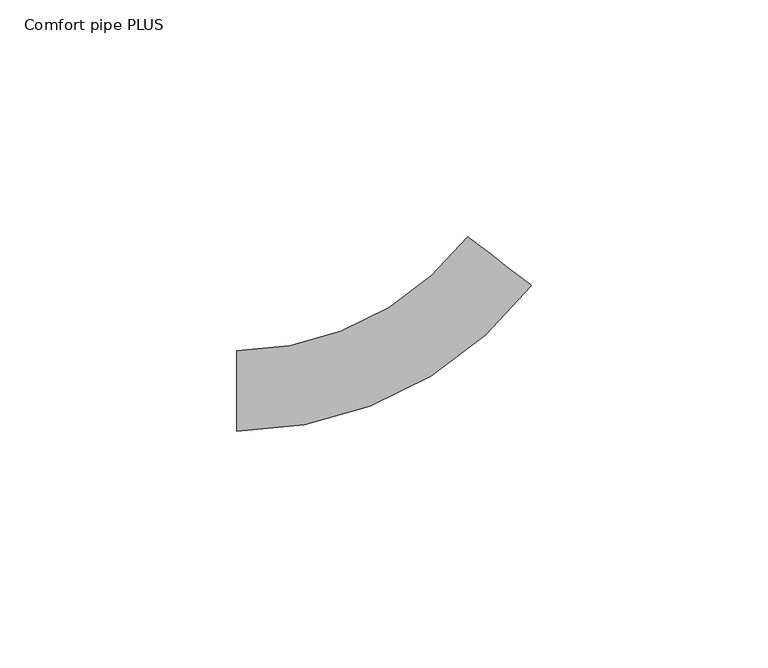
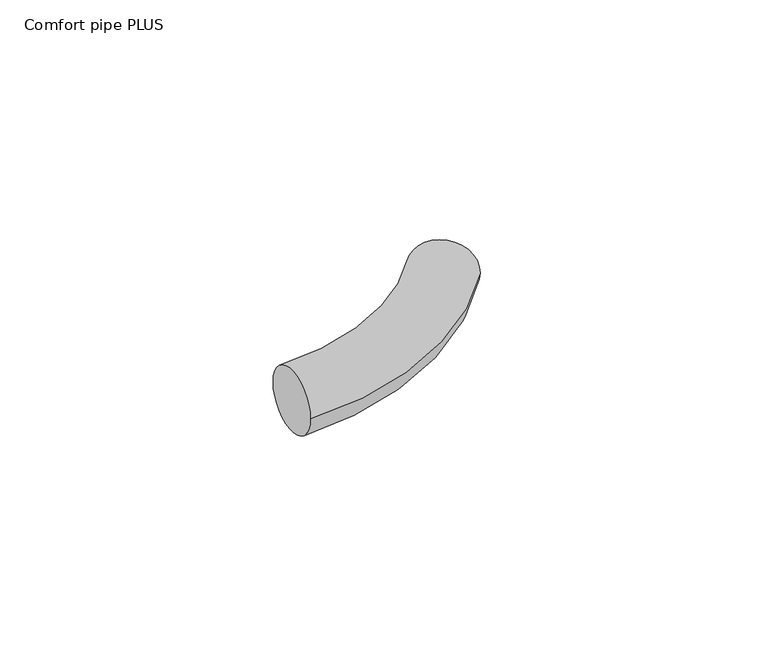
"""IFC4 building model written with IfcOpenShell, lengths in millimetres: pipe fitting geometry, 400_5-_Uponor_curved_Elbow : Comfort pipe PLUS."""

from ifc_helpers import new_model, si_unit, point, frame, origin, place, context, project, spatial, circle_curve, ellipse_curve, trimmed, source, transform, mapped, element, save
from ifc_brep_helpers import plane_surface, revolved_surface, advanced_brep


def comfort_pipe_plus_fd0ce3be(model_context):
    return source(origin(), model_context, "Body", "AdvancedBrep", [
        advanced_brep(
        [(-34.5487759, -8.5, 0.0), (-34.5487759, 8.5, 0.0), (27.7608491, 22.253161, 0.0), (14.2670449, 32.5932408, 0.0)],
        [
            (0, 1, circle_curve(frame((-34.5487759, 0.0, 0.0), z_axis=(-1.0, 0.0, 0.0), x_axis=(0.0, 1.0, 0.0)), 8.5)),
            (1, 0, circle_curve(frame((-34.5487759, 0.0, 0.0), z_axis=(-1.0, 0.0, 0.0), x_axis=(0.0, 1.0, 0.0)), 8.5)),
            (2, 3, circle_curve(frame((21.013947, 27.4232009, 0.0), z_axis=(0.6082399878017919, 0.7937531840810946, 0.0), x_axis=(-0.7937531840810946, 0.6082399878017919, 0.0)), 8.5)),
            (3, 2, circle_curve(frame((21.013947, 27.4232009, 0.0), z_axis=(0.6082399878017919, 0.7937531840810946, 0.0), x_axis=(-0.7937531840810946, 0.6082399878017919, 0.0)), 8.5)),
            (3, 1, circle_curve(frame((-34.5487759, 70.0, 0.0), z_axis=(0.0, 0.0, -1.0), x_axis=(0.0, -1.0, 0.0)), 61.5)),
            (0, 2, circle_curve(frame((-34.5487759, 70.0, 0.0), z_axis=(0.0, 0.0, 1.0), x_axis=(0.0, -1.0, 0.0)), 78.5)),
        ],
        [
            plane_surface(frame((-34.5487759, 0.0, 0.0), z_axis=(-1.0, 0.0, 0.0), x_axis=(0.0, 0.0, 1.0))),
            plane_surface(frame((21.013947, 27.4232009, 0.0), z_axis=(0.6082399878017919, 0.7937531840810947, 0.0), x_axis=(0.0, 0.0, 1.0))),
            revolved_surface(trimmed(ellipse_curve(frame((-34.5487759, 0.0, 0.0), z_axis=(-1.0, 0.0, 0.0), x_axis=(0.0, 1.0, 0.0)), 8.5, 8.5), [point((-34.5487759, -8.5, 0.0))], [point((-34.5487759, 8.5, 0.0))], True, "CARTESIAN"), (-34.5487759, 70.0, 0.0), (0.0, 0.0, 1.0)),
            revolved_surface(trimmed(ellipse_curve(frame((-34.5487759, 0.0, 0.0), z_axis=(-1.0, 0.0, 0.0), x_axis=(0.0, 1.0, 0.0)), 8.5, 8.5), [point((-34.5487759, 8.5, 0.0))], [point((-34.5487759, -8.5, 0.0))], True, "CARTESIAN"), (-34.5487759, 70.0, 0.0), (0.0, 0.0, 1.0)),
        ],
        [
            (0, [[1, 2]]),
            (1, [[3, 4]]),
            (2, [[5, -1, 6, -4]]),
            (3, [[-6, -2, -5, -3]]),
        ],
    ),
    ])


if __name__ == "__main__":
    model = new_model("IFC4")
    model_context = context("Model", 3, world=origin())
    ifc_project = project(units=[si_unit("LENGTHUNIT", "METRE", prefix="MILLI")], contexts=[model_context])
    site = spatial("IfcSite", under=ifc_project)
    building = spatial("IfcBuilding", under=site)
    placement = place(None, origin())
    comfort_pipe_plus_shape = comfort_pipe_plus_fd0ce3be(model_context)
    element("IfcPipeFitting", 1, ObjectType="400_5-_Uponor_curved_Elbow : Comfort pipe PLUS", at=placement, inside=building, context=model_context, shape_type="MappedRepresentation", body=[
        mapped(comfort_pipe_plus_shape, transform((0.0, 0.0, 0.0), x_axis=(1.0, 0.0, 0.0), y_axis=(0.0, 1.0, 0.0), z_axis=(0.0, 0.0, 1.0))),
    ])
    save(model, "model.ifc")
